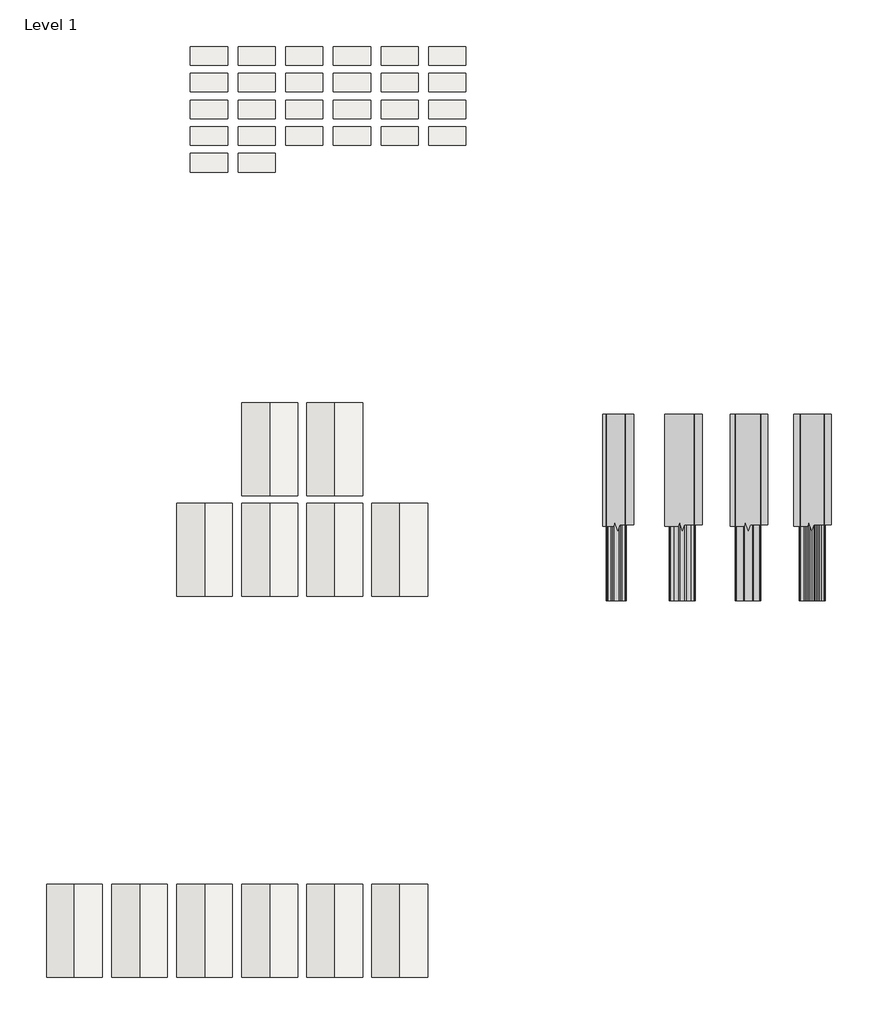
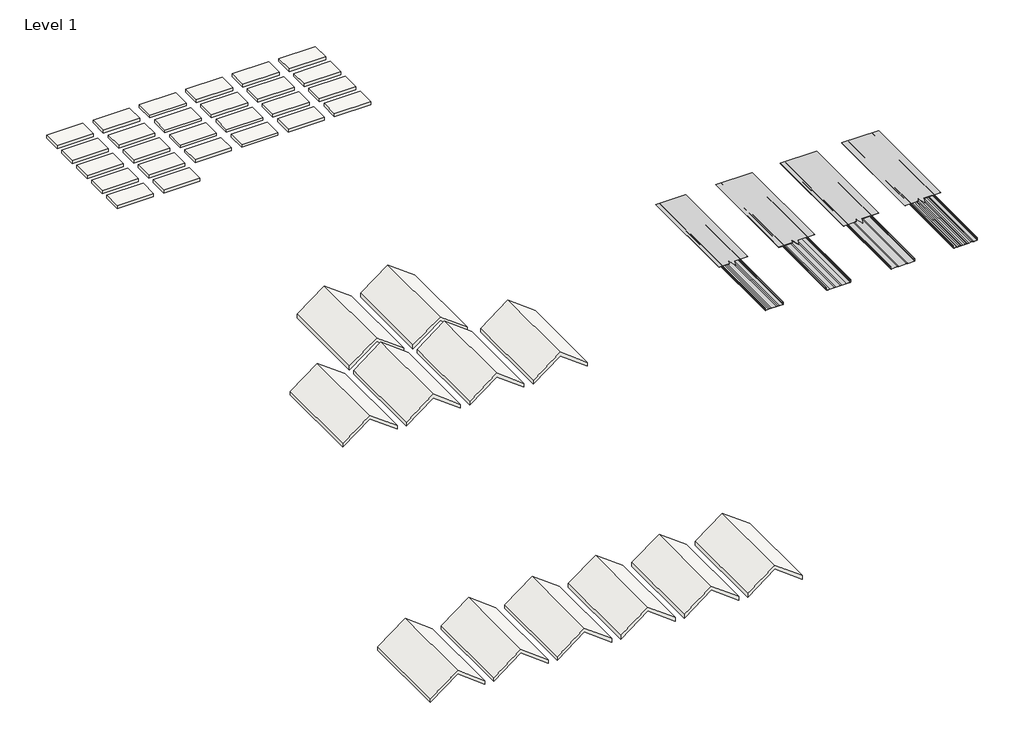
# One storey: 26 slabs, 12 roofs, 8 proxies.
"""IFC4 building model written with IfcOpenShell, lengths in millimetres."""

from ifc_helpers import new_model, si_unit, frame, origin, place, context, project, spatial, polyline, outline, extrude, transform, mapped, element, save
from components import generic_models_8f1d55d1, section_mask1_section_mask_feacc367, section_mask3_section_mask_1676ee38, proxy_3ed22cc2, proxy_ca0f3488, proxy_93f6b263

model = new_model("IFC4")

# Units and contexts
model_context = context("Model", 3, world=origin())
ifc_project = project(units=[si_unit("LENGTHUNIT", "METRE", prefix="MILLI")], contexts=[model_context])

# Site, building, storey
site = spatial("IfcSite", under=ifc_project)
building = spatial("IfcBuilding", under=site)
storey = spatial("IfcBuildingStorey", under=building, Name="Level 1", Elevation=0.0)

# Proxies
placement = place(None, origin())
generic_models_shape = generic_models_8f1d55d1(model_context)
element("IfcBuildingElementProxy", 1, Name="Span-Lok_hp_Striated_Panel_AEP_Span : 16\" Span-Lok hp Striated - 22ga", ObjectType="Span-Lok_hp_Striated_Panel_AEP_Span : 16\" Span-Lok hp Striated - 22ga", at=placement, inside=storey, context=model_context, shape_type="MappedRepresentation", body=[
    mapped(generic_models_shape, transform((5254.6251546, 1465.6560039, 0.0), x_axis=(1.0, 0.0, 0.0), y_axis=(0.0, 1.0, 0.0), z_axis=(0.0, 0.0, 1.0))),
])
section_mask1_section_mask_shape = section_mask1_section_mask_feacc367(model_context)
element("IfcBuildingElementProxy", 2, Name="Section Mask1 : Section Mask", ObjectType="Section Mask1 : Section Mask", at=placement, inside=storey, context=model_context, shape_type="MappedRepresentation", body=[
    mapped(section_mask1_section_mask_shape, transform((-5075.4964157, -991.4799685, 9.525), x_axis=(1.0, 0.0, 0.0), y_axis=(0.0, 1.0, 0.0), z_axis=(0.0, 0.0, 1.0))),
])
element("IfcBuildingElementProxy", 3, Name="Section Mask2 : Section Mask", ObjectType="Section Mask2 : Section Mask", at=placement, inside=storey, context=model_context, shape_type="MappedRepresentation", body=[
    mapped(section_mask1_section_mask_shape, transform((-3996.3118521, -991.4799685, 9.525), x_axis=(1.0, 0.0, 0.0), y_axis=(0.0, 1.0, 0.0), z_axis=(0.0, 0.0, 1.0))),
])
section_mask3_section_mask_shape = section_mask3_section_mask_1676ee38(model_context)
element("IfcBuildingElementProxy", 4, Name="Section Mask3 : Section Mask", ObjectType="Section Mask3 : Section Mask", at=placement, inside=storey, context=model_context, shape_type="MappedRepresentation", body=[
    mapped(section_mask3_section_mask_shape, transform((-6135.9464157, -991.4799685, 9.525), x_axis=(1.0, 0.0, 0.0), y_axis=(0.0, 1.0, 0.0), z_axis=(0.0, 0.0, 1.0))),
])
element("IfcBuildingElementProxy", 5, Name="Section Mask4 : Section Mask", ObjectType="Section Mask4 : Section Mask", at=placement, inside=storey, context=model_context, shape_type="MappedRepresentation", body=[
    mapped(section_mask1_section_mask_shape, transform((-2955.0306234, -991.4799685, 9.525), x_axis=(1.0, 0.0, 0.0), y_axis=(0.0, 1.0, 0.0), z_axis=(0.0, 0.0, 1.0))),
])
proxy_shape = proxy_3ed22cc2(model_context)
element("IfcBuildingElementProxy", 6, Name="Span-Lok_hp_Panel_AEP_Span : 12\" Curved Span-Lok hp Flat - 22ga", ObjectType="Span-Lok_hp_Panel_AEP_Span : 12\" Curved Span-Lok hp Flat - 22ga", at=placement, inside=storey, context=model_context, shape_type="MappedRepresentation", body=[
    mapped(proxy_shape, transform((2042.0591447, 1465.6560039, 0.0), x_axis=(1.0, 0.0, 0.0), y_axis=(0.0, 1.0, 0.0), z_axis=(0.0, 0.0, 1.0))),
])
proxy_2_shape = proxy_ca0f3488(model_context)
element("IfcBuildingElementProxy", 7, Name="Span-Lok_hp_Panel_AEP_Span : 16\" Curved Span-Lok hp Flat - 22ga", ObjectType="Span-Lok_hp_Panel_AEP_Span : 16\" Curved Span-Lok hp Flat - 22ga", at=placement, inside=storey, context=model_context, shape_type="MappedRepresentation", body=[
    mapped(proxy_2_shape, transform((3121.9684553, 1465.6560039, 0.0), x_axis=(1.0, 0.0, 0.0), y_axis=(0.0, 1.0, 0.0), z_axis=(0.0, 0.0, 1.0))),
])
proxy_3_shape = proxy_93f6b263(model_context)
element("IfcBuildingElementProxy", 8, Name="Span-Lok_hp_Pencil-Ribs_Panel_AEP_Span : 16\" Span-Lok hp Pencil Ribs - 22ga", ObjectType="Span-Lok_hp_Pencil-Ribs_Panel_AEP_Span : 16\" Span-Lok hp Pencil Ribs - 22ga", at=placement, inside=storey, context=model_context, shape_type="MappedRepresentation", body=[
    mapped(proxy_3_shape, transform((4201.1528904, 1465.6560039, 0.0), x_axis=(1.0, 0.0, 0.0), y_axis=(0.0, 1.0, 0.0), z_axis=(0.0, 0.0, 1.0))),
])

# Roofs
element("IfcRoof", 9, ObjectType="16\" Span Lok hp Striated - 22ga", at=placement, inside=storey, context=model_context, shape_type="SweptSolid", body=[
    extrude(outline(polyline([(63.5, -2123.6750229), (406.4, -2580.8750229), (63.5, -3038.0750229), (0.0, -3038.0750229), (342.9, -2580.8750229), (0.0, -2123.6750229), (63.5, -2123.6750229)])), frame((0.0, -1510.2262262, 0.0), z_axis=(0.0, 1.0, 0.0), x_axis=(0.0, 0.0, 1.0)), (0.0, 0.0, 1.0), 1524.0),
])
element("IfcRoof", 10, ObjectType="16\" Span Lok hp Striated - 24ga", at=placement, inside=storey, context=model_context, shape_type="SweptSolid", body=[
    extrude(outline(polyline([(63.5, -1056.8750229), (406.4, -1514.0750229), (63.5, -1971.2750229), (0.0, -1971.2750229), (342.9, -1514.0750229), (0.0, -1056.8750229), (63.5, -1056.8750229)])), frame((0.0, -1510.2262262, 0.0), z_axis=(0.0, 1.0, 0.0), x_axis=(0.0, 0.0, 1.0)), (0.0, 0.0, 1.0), 1524.0),
])
element("IfcRoof", 11, ObjectType="16\" Span Lok hp Striated - 22ga", at=placement, inside=storey, context=model_context, shape_type="SweptSolid", body=[
    extrude(outline(polyline([(63.5, -2123.6750229), (406.4, -2580.8750229), (63.5, -3038.0750229), (0.0, -3038.0750229), (342.9, -2580.8750229), (0.0, -2123.6750229), (63.5, -2123.6750229)])), frame((0.0, -7758.6262262, 0.0), z_axis=(0.0, 1.0, 0.0), x_axis=(0.0, 0.0, 1.0)), (0.0, 0.0, 1.0), 1524.0),
])
element("IfcRoof", 12, ObjectType="16\" Span Lok hp Striated - 24ga", at=placement, inside=storey, context=model_context, shape_type="SweptSolid", body=[
    extrude(outline(polyline([(63.5, -1056.8750229), (406.4, -1514.0750229), (63.5, -1971.2750229), (0.0, -1971.2750229), (342.9, -1514.0750229), (0.0, -1056.8750229), (63.5, -1056.8750229)])), frame((0.0, -7758.6262262, 0.0), z_axis=(0.0, 1.0, 0.0), x_axis=(0.0, 0.0, 1.0)), (0.0, 0.0, 1.0), 1524.0),
])
element("IfcRoof", 13, ObjectType="12\" Span Lok hp - 22ga", at=placement, inside=storey, context=model_context, shape_type="SweptSolid", body=[
    extrude(outline(polyline([(63.5, -3190.4750229), (406.4, -3647.6750229), (63.5, -4104.8750229), (0.0, -4104.8750229), (342.9, -3647.6750229), (0.0, -3190.4750229), (63.5, -3190.4750229)])), frame((0.0, 140.5584683, 0.0), z_axis=(0.0, 1.0, 0.0), x_axis=(0.0, 0.0, 1.0)), (0.0, 0.0, 1.0), 1524.0),
])
element("IfcRoof", 14, ObjectType="12\" Span Lok hp - 22ga", at=placement, inside=storey, context=model_context, shape_type="SweptSolid", body=[
    extrude(outline(polyline([(63.5, -6390.8750229), (406.4, -6848.0750229), (63.5, -7305.2750229), (0.0, -7305.2750229), (342.9, -6848.0750229), (0.0, -6390.8750229), (63.5, -6390.8750229)])), frame((0.0, -7758.6262262, 0.0), z_axis=(0.0, 1.0, 0.0), x_axis=(0.0, 0.0, 1.0)), (0.0, 0.0, 1.0), 1524.0),
])
element("IfcRoof", 15, ObjectType="12\" Span Lok hp - 24ga", at=placement, inside=storey, context=model_context, shape_type="SweptSolid", body=[
    extrude(outline(polyline([(63.5, -2123.6750229), (406.4, -2580.8750229), (63.5, -3038.0750229), (0.0, -3038.0750229), (342.9, -2580.8750229), (0.0, -2123.6750229), (63.5, -2123.6750229)])), frame((0.0, 140.5584683, 0.0), z_axis=(0.0, 1.0, 0.0), x_axis=(0.0, 0.0, 1.0)), (0.0, 0.0, 1.0), 1524.0),
])
element("IfcRoof", 16, ObjectType="12\" Span Lok hp - 24ga", at=placement, inside=storey, context=model_context, shape_type="SweptSolid", body=[
    extrude(outline(polyline([(63.5, -5324.0750229), (406.4, -5781.2750229), (63.5, -6238.4750229), (0.0, -6238.4750229), (342.9, -5781.2750229), (0.0, -5324.0750229), (63.5, -5324.0750229)])), frame((0.0, -7758.6262262, 0.0), z_axis=(0.0, 1.0, 0.0), x_axis=(0.0, 0.0, 1.0)), (0.0, 0.0, 1.0), 1524.0),
])
element("IfcRoof", 17, ObjectType="16\" Span Lok hp Pencil Ribs - 22ga", at=placement, inside=storey, context=model_context, shape_type="SweptSolid", body=[
    extrude(outline(polyline([(63.5, -4257.2750229), (406.4, -4714.4750229), (63.5, -5171.6750229), (0.0, -5171.6750229), (342.9, -4714.4750229), (0.0, -4257.2750229), (63.5, -4257.2750229)])), frame((0.0, -1510.2262262, 0.0), z_axis=(0.0, 1.0, 0.0), x_axis=(0.0, 0.0, 1.0)), (0.0, 0.0, 1.0), 1524.0),
])
element("IfcRoof", 18, ObjectType="16\" Span Lok hp Pencil Ribs - 22ga", at=placement, inside=storey, context=model_context, shape_type="SweptSolid", body=[
    extrude(outline(polyline([(63.5, -4257.2750229), (406.4, -4714.4750229), (63.5, -5171.6750229), (0.0, -5171.6750229), (342.9, -4714.4750229), (0.0, -4257.2750229), (63.5, -4257.2750229)])), frame((0.0, -7758.6262262, 0.0), z_axis=(0.0, 1.0, 0.0), x_axis=(0.0, 0.0, 1.0)), (0.0, 0.0, 1.0), 1524.0),
])
element("IfcRoof", 19, ObjectType="16\" Span Lok hp Pencil Ribs - 24ga", at=placement, inside=storey, context=model_context, shape_type="SweptSolid", body=[
    extrude(outline(polyline([(63.5, -3190.4750229), (406.4, -3647.6750229), (63.5, -4104.8750229), (0.0, -4104.8750229), (342.9, -3647.6750229), (0.0, -3190.4750229), (63.5, -3190.4750229)])), frame((0.0, -1510.2262262, 0.0), z_axis=(0.0, 1.0, 0.0), x_axis=(0.0, 0.0, 1.0)), (0.0, 0.0, 1.0), 1524.0),
])
element("IfcRoof", 20, ObjectType="16\" Span Lok hp Pencil Ribs - 24ga", at=placement, inside=storey, context=model_context, shape_type="SweptSolid", body=[
    extrude(outline(polyline([(63.5, -3190.4750229), (406.4, -3647.6750229), (63.5, -4104.8750229), (0.0, -4104.8750229), (342.9, -3647.6750229), (0.0, -3190.4750229), (63.5, -3190.4750229)])), frame((0.0, -7758.6262262, 0.0), z_axis=(0.0, 1.0, 0.0), x_axis=(0.0, 0.0, 1.0)), (0.0, 0.0, 1.0), 1524.0),
])

# Slabs
element("IfcSlab", 21, ObjectType="AEP Span Color Sample", at=placement, inside=storey, context=model_context, shape_type="SweptSolid", body=[
    extrude(outline(polyline([(-4336.915334, 7196.0746889), (-4946.515334, 7196.0746889), (-4946.515334, 7500.8746889), (-4336.915334, 7500.8746889), (-4336.915334, 7196.0746889)])), frame((0.0, 0.0, -50.8), z_axis=(0.0, 0.0, 1.0), x_axis=(1.0, 0.0, 0.0)), (0.0, 0.0, 1.0), 50.8),
])
element("IfcSlab", 22, ObjectType="AEP Span Color Sample", at=placement, inside=storey, context=model_context, shape_type="SweptSolid", body=[
    extrude(outline(polyline([(-3555.865334, 7196.0746889), (-4165.465334, 7196.0746889), (-4165.465334, 7500.8746889), (-3555.865334, 7500.8746889), (-3555.865334, 7196.0746889)])), frame((0.0, 0.0, -50.8), z_axis=(0.0, 0.0, 1.0), x_axis=(1.0, 0.0, 0.0)), (0.0, 0.0, 1.0), 50.8),
])
element("IfcSlab", 23, ObjectType="AEP Span Color Sample", at=placement, inside=storey, context=model_context, shape_type="SweptSolid", body=[
    extrude(outline(polyline([(-2774.815334, 7196.0746889), (-3384.415334, 7196.0746889), (-3384.415334, 7500.8746889), (-2774.815334, 7500.8746889), (-2774.815334, 7196.0746889)])), frame((0.0, 0.0, -50.8), z_axis=(0.0, 0.0, 1.0), x_axis=(1.0, 0.0, 0.0)), (0.0, 0.0, 1.0), 50.8),
])
element("IfcSlab", 24, ObjectType="AEP Span Color Sample", at=placement, inside=storey, context=model_context, shape_type="SweptSolid", body=[
    extrude(outline(polyline([(-1993.765334, 7196.0746889), (-2603.365334, 7196.0746889), (-2603.365334, 7500.8746889), (-1993.765334, 7500.8746889), (-1993.765334, 7196.0746889)])), frame((0.0, 0.0, -50.8), z_axis=(0.0, 0.0, 1.0), x_axis=(1.0, 0.0, 0.0)), (0.0, 0.0, 1.0), 50.8),
])
element("IfcSlab", 25, ObjectType="AEP Span Color Sample", at=placement, inside=storey, context=model_context, shape_type="SweptSolid", body=[
    extrude(outline(polyline([(-1212.715334, 7196.0746889), (-1822.315334, 7196.0746889), (-1822.315334, 7500.8746889), (-1212.715334, 7500.8746889), (-1212.715334, 7196.0746889)])), frame((0.0, 0.0, -50.8), z_axis=(0.0, 0.0, 1.0), x_axis=(1.0, 0.0, 0.0)), (0.0, 0.0, 1.0), 50.8),
])
element("IfcSlab", 26, ObjectType="AEP Span Color Sample", at=placement, inside=storey, context=model_context, shape_type="SweptSolid", body=[
    extrude(outline(polyline([(-431.665334, 7196.0746889), (-1041.265334, 7196.0746889), (-1041.265334, 7500.8746889), (-431.665334, 7500.8746889), (-431.665334, 7196.0746889)])), frame((0.0, 0.0, -50.8), z_axis=(0.0, 0.0, 1.0), x_axis=(1.0, 0.0, 0.0)), (0.0, 0.0, 1.0), 50.8),
])
element("IfcSlab", 27, ObjectType="AEP Span Color Sample", at=placement, inside=storey, context=model_context, shape_type="SweptSolid", body=[
    extrude(outline(polyline([(-4336.915334, 6757.9246889), (-4946.515334, 6757.9246889), (-4946.515334, 7062.7246889), (-4336.915334, 7062.7246889), (-4336.915334, 6757.9246889)])), frame((0.0, 0.0, -50.8), z_axis=(0.0, 0.0, 1.0), x_axis=(1.0, 0.0, 0.0)), (0.0, 0.0, 1.0), 50.8),
])
element("IfcSlab", 28, ObjectType="AEP Span Color Sample", at=placement, inside=storey, context=model_context, shape_type="SweptSolid", body=[
    extrude(outline(polyline([(-3555.865334, 6757.9246889), (-4165.465334, 6757.9246889), (-4165.465334, 7062.7246889), (-3555.865334, 7062.7246889), (-3555.865334, 6757.9246889)])), frame((0.0, 0.0, -50.8), z_axis=(0.0, 0.0, 1.0), x_axis=(1.0, 0.0, 0.0)), (0.0, 0.0, 1.0), 50.8),
])
element("IfcSlab", 29, ObjectType="AEP Span Color Sample", at=placement, inside=storey, context=model_context, shape_type="SweptSolid", body=[
    extrude(outline(polyline([(-2774.815334, 6757.9246889), (-3384.415334, 6757.9246889), (-3384.415334, 7062.7246889), (-2774.815334, 7062.7246889), (-2774.815334, 6757.9246889)])), frame((0.0, 0.0, -50.8), z_axis=(0.0, 0.0, 1.0), x_axis=(1.0, 0.0, 0.0)), (0.0, 0.0, 1.0), 50.8),
])
element("IfcSlab", 30, ObjectType="AEP Span Color Sample", at=placement, inside=storey, context=model_context, shape_type="SweptSolid", body=[
    extrude(outline(polyline([(-1993.765334, 6757.9246889), (-2603.365334, 6757.9246889), (-2603.365334, 7062.7246889), (-1993.765334, 7062.7246889), (-1993.765334, 6757.9246889)])), frame((0.0, 0.0, -50.8), z_axis=(0.0, 0.0, 1.0), x_axis=(1.0, 0.0, 0.0)), (0.0, 0.0, 1.0), 50.8),
])
element("IfcSlab", 31, ObjectType="AEP Span Color Sample", at=placement, inside=storey, context=model_context, shape_type="SweptSolid", body=[
    extrude(outline(polyline([(-1212.715334, 6757.9246889), (-1822.315334, 6757.9246889), (-1822.315334, 7062.7246889), (-1212.715334, 7062.7246889), (-1212.715334, 6757.9246889)])), frame((0.0, 0.0, -50.8), z_axis=(0.0, 0.0, 1.0), x_axis=(1.0, 0.0, 0.0)), (0.0, 0.0, 1.0), 50.8),
])
element("IfcSlab", 32, ObjectType="AEP Span Color Sample", at=placement, inside=storey, context=model_context, shape_type="SweptSolid", body=[
    extrude(outline(polyline([(-431.665334, 6757.9246889), (-1041.265334, 6757.9246889), (-1041.265334, 7062.7246889), (-431.665334, 7062.7246889), (-431.665334, 6757.9246889)])), frame((0.0, 0.0, -50.8), z_axis=(0.0, 0.0, 1.0), x_axis=(1.0, 0.0, 0.0)), (0.0, 0.0, 1.0), 50.8),
])
element("IfcSlab", 33, ObjectType="AEP Span Color Sample", at=placement, inside=storey, context=model_context, shape_type="SweptSolid", body=[
    extrude(outline(polyline([(-4336.915334, 6319.7746889), (-4946.515334, 6319.7746889), (-4946.515334, 6624.5746889), (-4336.915334, 6624.5746889), (-4336.915334, 6319.7746889)])), frame((0.0, 0.0, -50.8), z_axis=(0.0, 0.0, 1.0), x_axis=(1.0, 0.0, 0.0)), (0.0, 0.0, 1.0), 50.8),
])
element("IfcSlab", 34, ObjectType="AEP Span Color Sample", at=placement, inside=storey, context=model_context, shape_type="SweptSolid", body=[
    extrude(outline(polyline([(-3555.865334, 6319.7746889), (-4165.465334, 6319.7746889), (-4165.465334, 6624.5746889), (-3555.865334, 6624.5746889), (-3555.865334, 6319.7746889)])), frame((0.0, 0.0, -50.8), z_axis=(0.0, 0.0, 1.0), x_axis=(1.0, 0.0, 0.0)), (0.0, 0.0, 1.0), 50.8),
])
element("IfcSlab", 35, ObjectType="AEP Span Color Sample", at=placement, inside=storey, context=model_context, shape_type="SweptSolid", body=[
    extrude(outline(polyline([(-2774.815334, 6319.7746889), (-3384.415334, 6319.7746889), (-3384.415334, 6624.5746889), (-2774.815334, 6624.5746889), (-2774.815334, 6319.7746889)])), frame((0.0, 0.0, -50.8), z_axis=(0.0, 0.0, 1.0), x_axis=(1.0, 0.0, 0.0)), (0.0, 0.0, 1.0), 50.8),
])
element("IfcSlab", 36, ObjectType="AEP Span Color Sample", at=placement, inside=storey, context=model_context, shape_type="SweptSolid", body=[
    extrude(outline(polyline([(-1993.765334, 6319.7746889), (-2603.365334, 6319.7746889), (-2603.365334, 6624.5746889), (-1993.765334, 6624.5746889), (-1993.765334, 6319.7746889)])), frame((0.0, 0.0, -50.8), z_axis=(0.0, 0.0, 1.0), x_axis=(1.0, 0.0, 0.0)), (0.0, 0.0, 1.0), 50.8),
])
element("IfcSlab", 37, ObjectType="AEP Span Color Sample", at=placement, inside=storey, context=model_context, shape_type="SweptSolid", body=[
    extrude(outline(polyline([(-1212.715334, 6319.7746889), (-1822.315334, 6319.7746889), (-1822.315334, 6624.5746889), (-1212.715334, 6624.5746889), (-1212.715334, 6319.7746889)])), frame((0.0, 0.0, -50.8), z_axis=(0.0, 0.0, 1.0), x_axis=(1.0, 0.0, 0.0)), (0.0, 0.0, 1.0), 50.8),
])
element("IfcSlab", 38, ObjectType="AEP Span Color Sample", at=placement, inside=storey, context=model_context, shape_type="SweptSolid", body=[
    extrude(outline(polyline([(-431.665334, 6319.7746889), (-1041.265334, 6319.7746889), (-1041.265334, 6624.5746889), (-431.665334, 6624.5746889), (-431.665334, 6319.7746889)])), frame((0.0, 0.0, -50.8), z_axis=(0.0, 0.0, 1.0), x_axis=(1.0, 0.0, 0.0)), (0.0, 0.0, 1.0), 50.8),
])
element("IfcSlab", 39, ObjectType="AEP Span Color Sample", at=placement, inside=storey, context=model_context, shape_type="SweptSolid", body=[
    extrude(outline(polyline([(-4336.915334, 5881.6246889), (-4946.515334, 5881.6246889), (-4946.515334, 6186.4246889), (-4336.915334, 6186.4246889), (-4336.915334, 5881.6246889)])), frame((0.0, 0.0, -50.8), z_axis=(0.0, 0.0, 1.0), x_axis=(1.0, 0.0, 0.0)), (0.0, 0.0, 1.0), 50.8),
])
element("IfcSlab", 40, ObjectType="AEP Span Color Sample", at=placement, inside=storey, context=model_context, shape_type="SweptSolid", body=[
    extrude(outline(polyline([(-3555.865334, 5881.6246889), (-4165.465334, 5881.6246889), (-4165.465334, 6186.4246889), (-3555.865334, 6186.4246889), (-3555.865334, 5881.6246889)])), frame((0.0, 0.0, -50.8), z_axis=(0.0, 0.0, 1.0), x_axis=(1.0, 0.0, 0.0)), (0.0, 0.0, 1.0), 50.8),
])
element("IfcSlab", 41, ObjectType="AEP Span Color Sample", at=placement, inside=storey, context=model_context, shape_type="SweptSolid", body=[
    extrude(outline(polyline([(-2774.815334, 5881.6246889), (-3384.415334, 5881.6246889), (-3384.415334, 6186.4246889), (-2774.815334, 6186.4246889), (-2774.815334, 5881.6246889)])), frame((0.0, 0.0, -50.8), z_axis=(0.0, 0.0, 1.0), x_axis=(1.0, 0.0, 0.0)), (0.0, 0.0, 1.0), 50.8),
])
element("IfcSlab", 42, ObjectType="AEP Span Color Sample", at=placement, inside=storey, context=model_context, shape_type="SweptSolid", body=[
    extrude(outline(polyline([(-1993.765334, 5881.6246889), (-2603.365334, 5881.6246889), (-2603.365334, 6186.4246889), (-1993.765334, 6186.4246889), (-1993.765334, 5881.6246889)])), frame((0.0, 0.0, -50.8), z_axis=(0.0, 0.0, 1.0), x_axis=(1.0, 0.0, 0.0)), (0.0, 0.0, 1.0), 50.8),
])
element("IfcSlab", 43, ObjectType="AEP Span Color Sample", at=placement, inside=storey, context=model_context, shape_type="SweptSolid", body=[
    extrude(outline(polyline([(-1212.715334, 5881.6246889), (-1822.315334, 5881.6246889), (-1822.315334, 6186.4246889), (-1212.715334, 6186.4246889), (-1212.715334, 5881.6246889)])), frame((0.0, 0.0, -50.8), z_axis=(0.0, 0.0, 1.0), x_axis=(1.0, 0.0, 0.0)), (0.0, 0.0, 1.0), 50.8),
])
element("IfcSlab", 44, ObjectType="AEP Span Color Sample", at=placement, inside=storey, context=model_context, shape_type="SweptSolid", body=[
    extrude(outline(polyline([(-431.665334, 5881.6246889), (-1041.265334, 5881.6246889), (-1041.265334, 6186.4246889), (-431.665334, 6186.4246889), (-431.665334, 5881.6246889)])), frame((0.0, 0.0, -50.8), z_axis=(0.0, 0.0, 1.0), x_axis=(1.0, 0.0, 0.0)), (0.0, 0.0, 1.0), 50.8),
])
element("IfcSlab", 45, ObjectType="AEP Span Color Sample", at=placement, inside=storey, context=model_context, shape_type="SweptSolid", body=[
    extrude(outline(polyline([(-4336.915334, 5443.4746889), (-4946.515334, 5443.4746889), (-4946.515334, 5748.2746889), (-4336.915334, 5748.2746889), (-4336.915334, 5443.4746889)])), frame((0.0, 0.0, -50.8), z_axis=(0.0, 0.0, 1.0), x_axis=(1.0, 0.0, 0.0)), (0.0, 0.0, 1.0), 50.8),
])
element("IfcSlab", 46, ObjectType="AEP Span Color Sample", at=placement, inside=storey, context=model_context, shape_type="SweptSolid", body=[
    extrude(outline(polyline([(-3555.865334, 5443.4746889), (-4165.465334, 5443.4746889), (-4165.465334, 5748.2746889), (-3555.865334, 5748.2746889), (-3555.865334, 5443.4746889)])), frame((0.0, 0.0, -50.8), z_axis=(0.0, 0.0, 1.0), x_axis=(1.0, 0.0, 0.0)), (0.0, 0.0, 1.0), 50.8),
])

save(model, "model.ifc")
